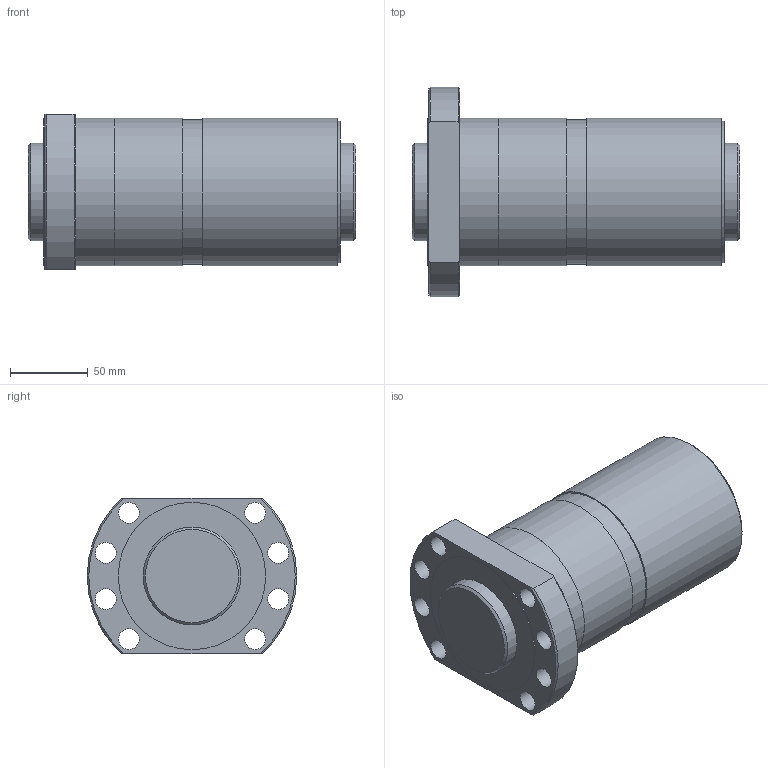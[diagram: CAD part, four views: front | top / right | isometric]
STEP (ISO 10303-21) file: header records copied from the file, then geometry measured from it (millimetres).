
FILE_DESCRIPTION(/* description */ ('STEP AP203'),/* implementation_level */ '2;1');
FILE_NAME(/* name */ 'SDAN6320VX-4G0+211LC0(0G000)',/* time_stamp */ '2024-07-04T10:23:19+02:00',/* author */ ('License CC BY-ND 4.0'),/* organization */ ('CADENAS'),/* preprocessor_version */ 'ST-DEVELOPER v19.3',/* originating_system */ 'PARTsolutions',/* authorisation */ ' ');
FILE_SCHEMA (('CONFIG_CONTROL_DESIGN'));
Length unit declared in the file: millimetre
Products named in the file (3): SDAN6320VX-4G0+211LC0(0G000); 0SDAN6320VX-40Shaft; SDAN6320VX-4_nut
Assembly tree (2 placements, depth 2):
  SDAN6320VX-4G0+211LC0(0G000)
    0SDAN6320VX-40Shaft
    SDAN6320VX-4_nut
Bounding box: 211 x 135 x 100 mm (x, y, z)
Volume: 1487475.2 mm3; surface area: 168634.9 mm2
Topology: 2 solids, 2 shells, 41 faces, 95 edges, 65 vertices
Faces by surface type: cylinder 21, plane 13, cone 7
Full cylindrical faces by diameter (mm): 5.2 x1, 6.917 x1, 13.5 x8, 63 x2, 91 x1, 93 x1, 93.1 x1, 95 x4
Entity records: 1143 total; most frequent: CARTESIAN_POINT 208, DIRECTION 188, ORIENTED_EDGE 128, EDGE_LOOP 90, FACE_BOUND 90, AXIS2_PLACEMENT_3D 90, EDGE_CURVE 64, VERTEX_POINT 56
